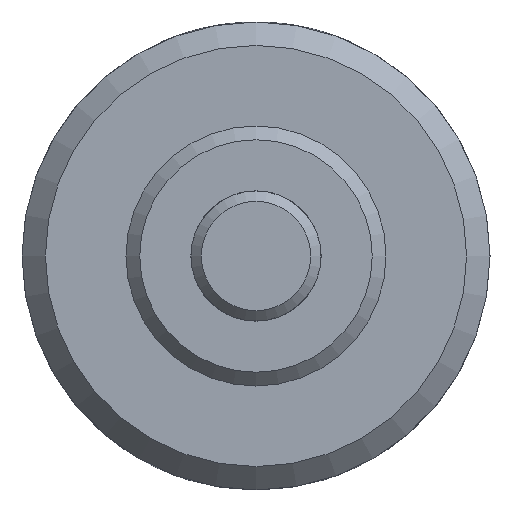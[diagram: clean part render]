
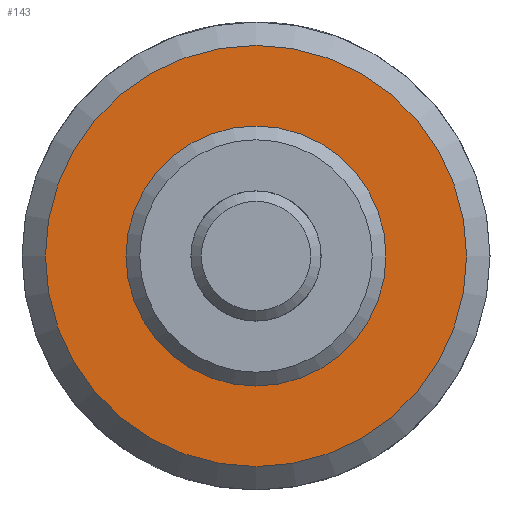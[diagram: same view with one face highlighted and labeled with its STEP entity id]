
A CAD part, left-side view. The second image highlights one B-rep face of the part: STEP entity #143.
In plain terms, the highlighted planar face has unit normal (-1, 0, 0).
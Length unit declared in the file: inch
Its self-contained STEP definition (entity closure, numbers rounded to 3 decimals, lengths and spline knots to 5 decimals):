
#143 = ADVANCED_FACE( '', ( #301, #302 ), #303, .F. );
#301 = FACE_OUTER_BOUND( '', #499, .T. );
#302 = FACE_BOUND( '', #500, .T. );
#303 = PLANE( '', #501 );
#499 = EDGE_LOOP( '', ( #736 ) );
#500 = EDGE_LOOP( '', ( #737 ) );
#501 = AXIS2_PLACEMENT_3D( '', #738, #739, #740 );
#736 = ORIENTED_EDGE( '', *, *, #1041, .F. );
#737 = ORIENTED_EDGE( '', *, *, #1042, .T. );
#738 = CARTESIAN_POINT( '', ( 0.5, 0.312, 0. ) );
#739 = DIRECTION( '', ( 1., 0., 0. ) );
#740 = DIRECTION( '', ( 0., 0., -1. ) );
#1041 = EDGE_CURVE( '', #1196, #1196, #1197, .T. );
#1042 = EDGE_CURVE( '', #1198, #1198, #1199, .T. );
#1196 = VERTEX_POINT( '', #1428 );
#1197 = CIRCLE( '', #1429, 0.50625 );
#1198 = VERTEX_POINT( '', #1430 );
#1199 = CIRCLE( '', #1431, 0.312 );
#1428 = CARTESIAN_POINT( '', ( 0.5, 0., -0.50625 ) );
#1429 = AXIS2_PLACEMENT_3D( '', #1665, #1666, #1667 );
#1430 = CARTESIAN_POINT( '', ( 0.5, 0., -0.312 ) );
#1431 = AXIS2_PLACEMENT_3D( '', #1668, #1669, #1670 );
#1665 = CARTESIAN_POINT( '', ( 0.5, 0., 0. ) );
#1666 = DIRECTION( '', ( 1., 0., 0. ) );
#1667 = DIRECTION( '', ( 0., 0., -1. ) );
#1668 = CARTESIAN_POINT( '', ( 0.5, 0., 0. ) );
#1669 = DIRECTION( '', ( 1., 0., 0. ) );
#1670 = DIRECTION( '', ( 0., 0., -1. ) );
